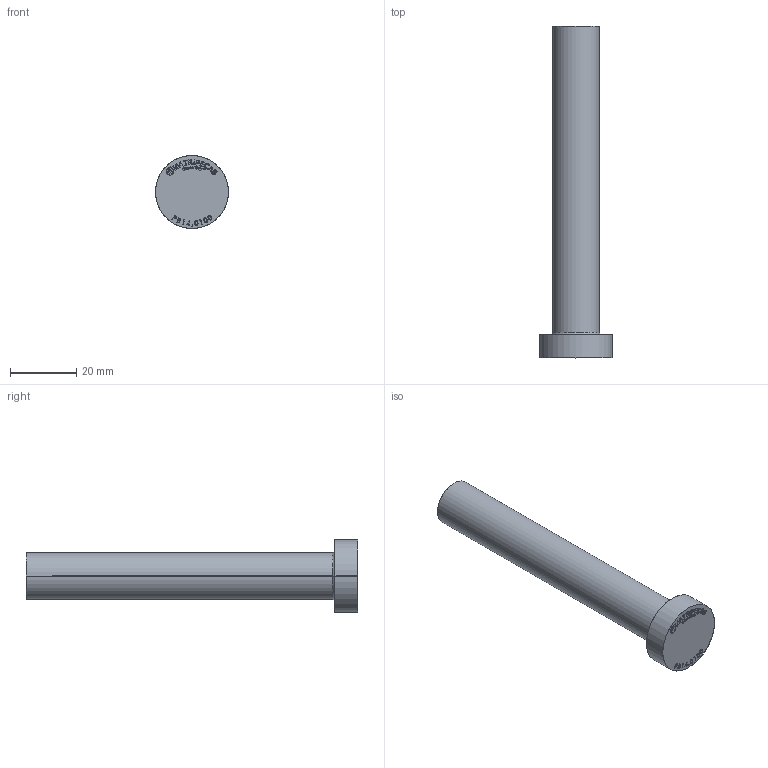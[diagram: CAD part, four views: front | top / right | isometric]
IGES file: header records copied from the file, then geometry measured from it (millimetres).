
Start section: SolidWorks IGES file using analytic representation for surfaces
Global section: file name: C:\Users\User\Downloads\Matripeça 31-08 tar\PB - PINO EXTRATOR TIPO _B_ (CATÁLOGO)\PB14,0\PB14,0100.IGS; native system: SolidWorks 2024; preprocessor: SolidWorks 2024; author: User; date: 260901.154309; units: millimetre
Bounding box: 22 x 100 x 22 mm (x, y, z)
Surface area: 5336.5 mm2 (no closed solid volume)
Topology: 0 solids, 0 shells, 392 faces, 3970 edges, 3970 vertices
Faces by surface type: bspline 378, revolution 14
